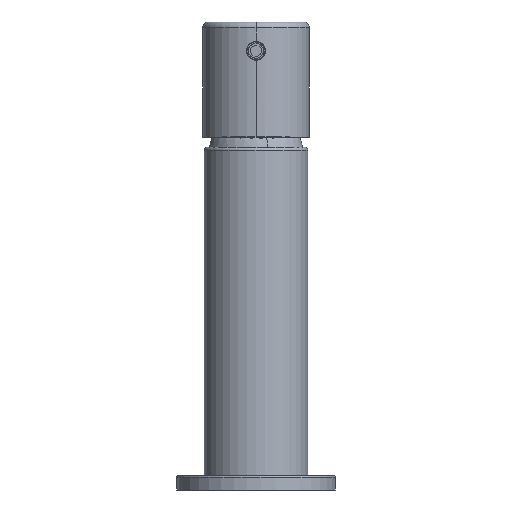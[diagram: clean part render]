
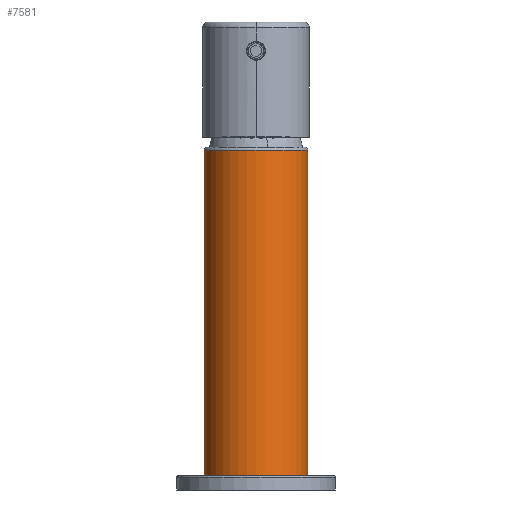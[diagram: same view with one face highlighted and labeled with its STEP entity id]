
A CAD part, front view. The second image highlights one B-rep face of the part: STEP entity #7581.
In plain terms, the highlighted cylindrical face has radius 18 mm (diameter 36 mm), a partial arc.
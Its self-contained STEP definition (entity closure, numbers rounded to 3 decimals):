
#27 = VERTEX_POINT ( 'NONE', #3745 ) ;
#102 = ORIENTED_EDGE ( 'NONE', *, *, #10211, .T. ) ;
#615 = EDGE_LOOP ( 'NONE', ( #9741, #4379, #102, #5482 ) ) ;
#938 = CARTESIAN_POINT ( 'NONE',  ( 0., 0., 0. ) ) ;
#1055 = VERTEX_POINT ( 'NONE', #2910 ) ;
#1206 = DIRECTION ( 'NONE',  ( 0., 0., 1. ) ) ;
#1478 = AXIS2_PLACEMENT_3D ( 'NONE', #8538, #1206, #3185 ) ;
#1793 = CARTESIAN_POINT ( 'NONE',  ( -18., 0., 0. ) ) ;
#1941 = DIRECTION ( 'NONE',  ( 0., 0., 1. ) ) ;
#2249 = EDGE_CURVE ( 'NONE', #9850, #27, #8255, .T. ) ;
#2258 = DIRECTION ( 'NONE',  ( 0., 0., -1. ) ) ;
#2329 = VERTEX_POINT ( 'NONE', #4886 ) ;
#2910 = CARTESIAN_POINT ( 'NONE',  ( 18., 0., 113. ) ) ;
#3185 = DIRECTION ( 'NONE',  ( 1., 0., 0. ) ) ;
#3330 = CARTESIAN_POINT ( 'NONE',  ( 0., 0., 113. ) ) ;
#3457 = LINE ( 'NONE', #6800, #11640 ) ;
#3745 = CARTESIAN_POINT ( 'NONE',  ( -18., 0., 113. ) ) ;
#4379 = ORIENTED_EDGE ( 'NONE', *, *, #7114, .T. ) ;
#4411 = EDGE_CURVE ( 'NONE', #1055, #27, #11216, .T. ) ;
#4886 = CARTESIAN_POINT ( 'NONE',  ( 18., 0., 0. ) ) ;
#5482 = ORIENTED_EDGE ( 'NONE', *, *, #4411, .T. ) ;
#5652 = DIRECTION ( 'NONE',  ( 0., 0., 1. ) ) ;
#5806 = FACE_OUTER_BOUND ( 'NONE', #615, .T. ) ;
#5954 = DIRECTION ( 'NONE',  ( 1., 0., 0. ) ) ;
#6577 = CYLINDRICAL_SURFACE ( 'NONE', #1478, 18. ) ;
#6800 = CARTESIAN_POINT ( 'NONE',  ( 18., 0., 0. ) ) ;
#7114 = EDGE_CURVE ( 'NONE', #9850, #2329, #7136, .T. ) ;
#7136 = CIRCLE ( 'NONE', #10934, 18. ) ;
#7581 = ADVANCED_FACE ( 'NONE', ( #5806 ), #6577, .T. ) ;
#7965 = DIRECTION ( 'NONE',  ( 0., 0., 1. ) ) ;
#8255 = LINE ( 'NONE', #10226, #10797 ) ;
#8538 = CARTESIAN_POINT ( 'NONE',  ( 0., 0., 0. ) ) ;
#9741 = ORIENTED_EDGE ( 'NONE', *, *, #2249, .F. ) ;
#9850 = VERTEX_POINT ( 'NONE', #1793 ) ;
#10044 = DIRECTION ( 'NONE',  ( 1., 0., 0. ) ) ;
#10211 = EDGE_CURVE ( 'NONE', #2329, #1055, #3457, .T. ) ;
#10226 = CARTESIAN_POINT ( 'NONE',  ( -18., 0., 0. ) ) ;
#10646 = AXIS2_PLACEMENT_3D ( 'NONE', #3330, #2258, #5954 ) ;
#10797 = VECTOR ( 'NONE', #5652, 1000. ) ;
#10934 = AXIS2_PLACEMENT_3D ( 'NONE', #938, #1941, #10044 ) ;
#11216 = CIRCLE ( 'NONE', #10646, 18. ) ;
#11640 = VECTOR ( 'NONE', #7965, 1000. ) ;
